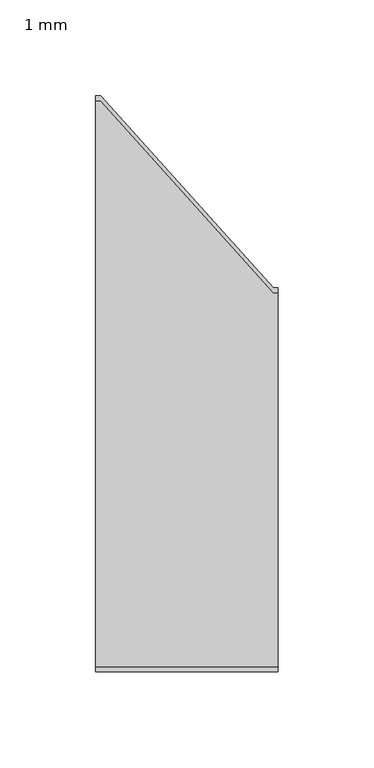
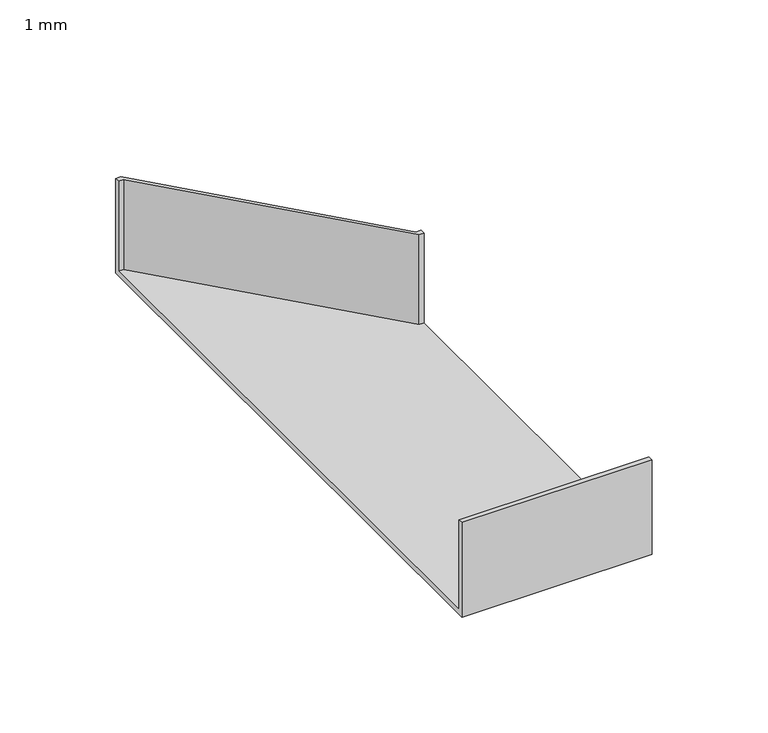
"""IFC4 building model written with IfcOpenShell, lengths in millimetres: cable carrier fitting geometry, BAKS_Redukcja : 1 mm."""

import ifcopenshell
import ifcopenshell.guid

model = None  # the IFC model being written
_history = None  # IfcOwnerHistory: only IFC2X3 demands one
_inside = {}  # id of a spatial element -> (the spatial element, [elements in it])
_under = {}  # id of a project, library or spatial element -> (it, [spatial elements below it])
_declared = {}  # id of a project -> (the project, [libraries it declares])
_typed = {}  # id of a type object -> (the type object, [elements of that type])
_made_of = {}  # id of a material, layer set ... -> (it, [elements and type objects made of it])


def new_model(schema):
    """Start an empty IFC model of exactly this schema.

    Asked for "IFC4X3", IfcOpenShell would pick the latest addendum, in which some entities
    have other attributes; the version numbers below select the first issue.
    IFC2X3 requires an IfcOwnerHistory on every rooted entity: one is made here for all.
    """
    global model, _history
    if schema == "IFC4X3":
        model = ifcopenshell.file(schema_version=(4, 3, 0, 0))
    else:
        model = ifcopenshell.file(schema=schema)
    _inside.clear()
    _under.clear()
    _declared.clear()
    _typed.clear()
    _made_of.clear()
    _history = None
    if model.schema == "IFC2X3":
        org = make("IfcOrganization", Name="unknown")
        user = make(
            "IfcPersonAndOrganization",
            ThePerson=make("IfcPerson", FamilyName="unknown"),
            TheOrganization=org,
        )
        app = make(
            "IfcApplication",
            ApplicationDeveloper=org,
            Version="unknown",
            ApplicationFullName="unknown",
            ApplicationIdentifier="unknown",
        )
        _history = make(
            "IfcOwnerHistory",
            OwningUser=user,
            OwningApplication=app,
            ChangeAction="ADDED",
            CreationDate=0,
        )
    return model


def make(cls, **values):
    """One entity of the class cls with the attributes given. An attribute that is None is left unset."""
    return model.create_entity(
        cls, **{name: value for name, value in values.items() if value is not None}
    )


def rooted(cls, **values):
    """An entity with a GlobalId (a new one), such as an element, a storey or a relation."""
    return make(cls, GlobalId=ifcopenshell.guid.new(), OwnerHistory=_history, **values)


def si_unit(unit_type, name, prefix=None):
    """IfcSIUnit, for example si_unit("LENGTHUNIT", "METRE", prefix="MILLI")."""
    return make("IfcSIUnit", UnitType=unit_type, Prefix=prefix, Name=name)


def assignment(units):
    """IfcUnitAssignment: the units of a project."""
    return None if units is None else make("IfcUnitAssignment", Units=units)


def point(xyz):
    """IfcCartesianPoint."""
    return None if xyz is None else make("IfcCartesianPoint", Coordinates=xyz)


def direction(xyz):
    """IfcDirection."""
    return None if xyz is None else make("IfcDirection", DirectionRatios=xyz)


def frame(location, z_axis=None, x_axis=None):
    """IfcAxis2Placement3D, a coordinate frame: its origin and axes. An axis left out is left unset."""
    return make(
        "IfcAxis2Placement3D",
        Location=point(location),
        Axis=direction(z_axis),
        RefDirection=direction(x_axis),
    )


def origin():
    """The frame at (0, 0, 0) with its axes left unset."""
    return frame((0.0, 0.0, 0.0))


def place(relative_to, where):
    """IfcLocalPlacement: puts the frame where relative to a parent placement (None: the world)."""
    return make(
        "IfcLocalPlacement", PlacementRelTo=relative_to, RelativePlacement=where
    )


def context(
    kind, dimensions, precision=None, world=None, true_north=None, identifier=None
):
    """IfcGeometricRepresentationContext, for example the 3D "Model" context."""
    return make(
        "IfcGeometricRepresentationContext",
        ContextIdentifier=identifier,
        ContextType=kind,
        CoordinateSpaceDimension=dimensions,
        Precision=precision,
        WorldCoordinateSystem=world,
        TrueNorth=true_north,
    )


def project(units=None, contexts=None):
    """IfcProject with its units and contexts."""
    return rooted(
        "IfcProject",
        Name="project",
        RepresentationContexts=contexts,
        UnitsInContext=assignment(units),
    )


def spatial(cls, under=None, at=None, **own):
    """A site, building, storey or space (cls), placed at a placement, below another one or the project."""
    s = rooted(cls, ObjectPlacement=at, **own)
    if under is not None:
        _under.setdefault(under.id(), (under, []))[1].append(s)
    return s


def faces_of(points, faces, orient=None, outer=None):
    """IfcFace entities. A face is a list of loops; a loop is a list of indices into points, from 0.

    orient and outer hold one flag for each loop. By default every Orientation is true, the
    first loop of a face is its IfcFaceOuterBound and the others are IfcFaceBound.
    """
    made = []
    for i, loops in enumerate(faces):
        bounds = []
        for j, loop in enumerate(loops):
            is_outer = j == 0 if outer is None else outer[i][j]
            bounds.append(
                make(
                    "IfcFaceOuterBound" if is_outer else "IfcFaceBound",
                    Bound=make("IfcPolyLoop", Polygon=[points[k] for k in loop]),
                    Orientation=True if orient is None else orient[i][j],
                )
            )
        made.append(make("IfcFace", Bounds=bounds))
    return made


def faceted_brep(points, faces, orient=None, outer=None, voids=None):
    """IfcFacetedBrep: a solid bounded by flat faces; with voids (closed shells), ...WithVoids."""
    shared = [point(p) for p in points]
    hull = make("IfcClosedShell", CfsFaces=faces_of(shared, faces, orient, outer))
    if voids is None:
        return make("IfcFacetedBrep", Outer=hull)
    return make(
        "IfcFacetedBrepWithVoids",
        Outer=hull,
        Voids=[
            make(cls, CfsFaces=faces_of(shared, fs, o, b)) for cls, fs, o, b in voids
        ],
    )


def shape(context_of_items, identifier, shape_type, items):
    """IfcShapeRepresentation: the items that make up one representation, for example the "Body"."""
    return make(
        "IfcShapeRepresentation",
        ContextOfItems=context_of_items,
        RepresentationIdentifier=identifier,
        RepresentationType=shape_type,
        Items=items,
    )


def source(mapping_origin, context_of_items, identifier, shape_type, items):
    """IfcRepresentationMap: a shape defined once, which mapped items show again and again."""
    return make(
        "IfcRepresentationMap",
        MappingOrigin=mapping_origin,
        MappedRepresentation=shape(context_of_items, identifier, shape_type, items),
    )


def transform(
    local_origin,
    x_axis=None,
    y_axis=None,
    z_axis=None,
    scale=None,
    scale2=None,
    scale3=None,
    uniform=True,
):
    """IfcCartesianTransformationOperator3D, or its non-uniform kind. x_axis, y_axis, z_axis: its Axis1, 2, 3."""
    if uniform:
        return make(
            "IfcCartesianTransformationOperator3D",
            Axis1=direction(x_axis),
            Axis2=direction(y_axis),
            LocalOrigin=point(local_origin),
            Scale=scale,
            Axis3=direction(z_axis),
        )
    return make(
        "IfcCartesianTransformationOperator3DnonUniform",
        Axis1=direction(x_axis),
        Axis2=direction(y_axis),
        LocalOrigin=point(local_origin),
        Scale=scale,
        Axis3=direction(z_axis),
        Scale2=scale2,
        Scale3=scale3,
    )


def mapped(mapping_source, mapping_target):
    """IfcMappedItem: shows the shape of a source again, moved by a transform."""
    return make(
        "IfcMappedItem", MappingSource=mapping_source, MappingTarget=mapping_target
    )


def made_of(thing, what):
    """Note that an element or type object is made of a material, layer set ...; save() writes the relation."""
    if what is not None:
        _made_of.setdefault(what.id(), (what, []))[1].append(thing)
    return thing


def element(
    cls,
    number,
    at=None,
    inside=None,
    cuts=None,
    type_object=None,
    material=None,
    context=None,
    identifier="Body",
    shape_type=None,
    held_by="IfcProductDefinitionShape",
    body=None,
    shapes=None,
    **own,
):
    """One element of the class cls, such as IfcWall. Its Tag is "e" and its number.

    at: its placement. inside: the storey or other place that contains it. cuts: it is an
    opening in that element (IfcRelVoidsElement). A single representation is given by context,
    identifier, shape_type and body (its items); several are given by shapes. held_by: the class
    of the entity that holds the representations. save() writes the other relations.
    """
    e = rooted(cls, Tag="e%d" % number, ObjectPlacement=at, **own)
    if body is not None:
        shapes = [shape(context, identifier, shape_type, body)]
    if shapes is not None:
        e.Representation = make(held_by, Representations=shapes)
    if inside is not None:
        _inside.setdefault(inside.id(), (inside, []))[1].append(e)
    if cuts is not None:
        rooted(
            "IfcRelVoidsElement", RelatingBuildingElement=cuts, RelatedOpeningElement=e
        )
    if type_object is not None:
        _typed.setdefault(type_object.id(), (type_object, []))[1].append(e)
    return made_of(e, material)


def aggregate(whole, parts):
    """IfcRelAggregates: a whole, such as a stair, and the parts it consists of."""
    return rooted("IfcRelAggregates", RelatingObject=whole, RelatedObjects=parts)


def save(model, path):
    """Write the relations noted so far, then the file.

    IfcRelAggregates (storeys below a building ...), IfcRelContainedInSpatialStructure (elements
    in a storey), IfcRelDefinesByType, IfcRelAssociatesMaterial and IfcRelDeclares: one each for
    every whole, place, type object, material and project.
    """
    for whole, parts in _under.values():
        aggregate(whole, parts)
    for where, things in _inside.values():
        rooted(
            "IfcRelContainedInSpatialStructure",
            RelatedElements=things,
            RelatingStructure=where,
        )
    for kind, things in _typed.values():
        rooted("IfcRelDefinesByType", RelatedObjects=things, RelatingType=kind)
    for what, things in _made_of.values():
        rooted("IfcRelAssociatesMaterial", RelatedObjects=things, RelatingMaterial=what)
    for by, libraries in _declared.values():
        rooted("IfcRelDeclares", RelatingContext=by, RelatedDefinitions=libraries)
    model.write(path)


def cable_carrier_fitting_1_mm_c912ada3(model_context):
    return source(origin(), model_context, "Body", "Brep", [
        faceted_brep([(0.0, -150.0, -25.0), (0.0, -150.0, 25.0), (0.0, -147.46, 25.0), (0.0, -147.46, -22.46), (0.0, 147.46, -22.46), (0.0, 147.46, 25.0), (0.0, 150.0, 25.0), (0.0, 150.0, -25.0), (95.0, -150.0, -25.0), (95.0, 50.0, -25.0), (95.0, 50.0, 25.0), (95.0, 47.46, 25.0), (95.0, 47.46, -22.46), (95.0, -147.46, -22.46), (95.0, -147.46, 25.0), (95.0, -150.0, 25.0), (92.5, 47.46, -22.46), (2.5, 147.46, -22.46), (2.5, 147.46, 25.0), (92.5, 47.46, 25.0), (92.5, 50.0, 25.0), (2.5, 150.0, 25.0), (2.5, 150.0, -25.0), (92.5, 50.0, -25.0)], [[[0, 1, 2, 3, 4, 5, 6, 7]], [[8, 9, 10, 11, 12, 13, 14, 15]], [[1, 0, 8, 15]], [[2, 1, 15, 14]], [[3, 2, 14, 13]], [[4, 3, 13, 12, 16, 17]], [[5, 4, 17, 18]], [[6, 5, 18, 19, 11, 10, 20, 21]], [[7, 6, 21, 22]], [[8, 0, 7, 22, 23, 9]], [[12, 11, 19, 16]], [[10, 9, 23, 20]], [[23, 22, 21, 20]], [[19, 18, 17, 16]]]),
    ])


if __name__ == "__main__":
    model = new_model("IFC4")
    model_context = context("Model", 3, world=origin())
    ifc_project = project(units=[si_unit("LENGTHUNIT", "METRE", prefix="MILLI")], contexts=[model_context])
    site = spatial("IfcSite", under=ifc_project)
    building = spatial("IfcBuilding", under=site)
    placement = place(None, origin())
    cable_carrier_fitting_1_mm_shape = cable_carrier_fitting_1_mm_c912ada3(model_context)
    element("IfcCableCarrierFitting", 1, ObjectType="BAKS_Redukcja : 1 mm", at=placement, inside=building, context=model_context, shape_type="MappedRepresentation", body=[
        mapped(cable_carrier_fitting_1_mm_shape, transform((0.0, 0.0, 0.0), x_axis=(1.0, 0.0, 0.0), y_axis=(0.0, 1.0, 0.0), z_axis=(0.0, 0.0, 1.0))),
    ])
    save(model, "model.ifc")
